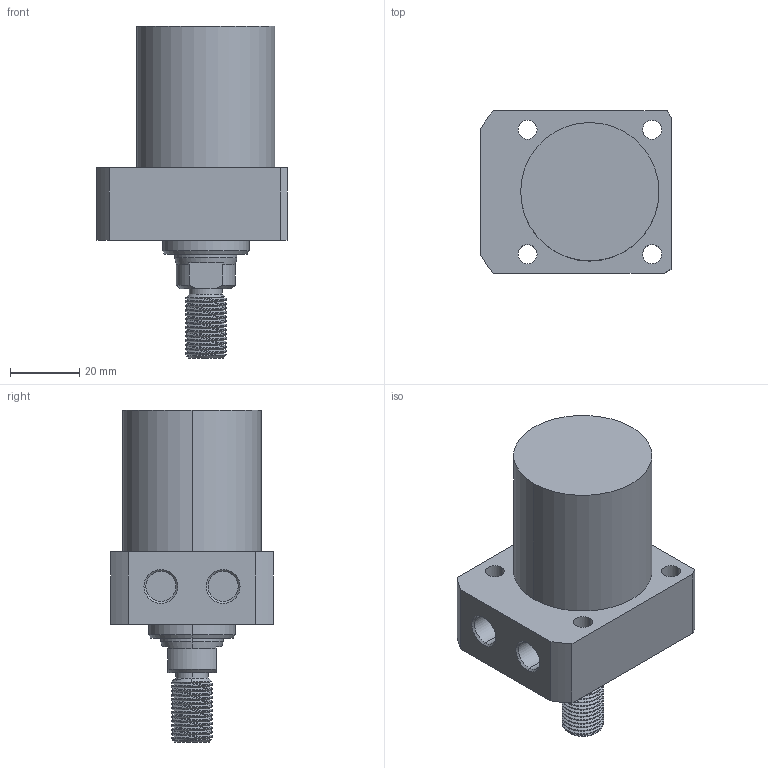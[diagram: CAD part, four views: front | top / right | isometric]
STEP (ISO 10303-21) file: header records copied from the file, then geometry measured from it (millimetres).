
FILE_DESCRIPTION (( 'STEP AP214' ), '1' );
FILE_NAME ('CLLR-040CT-030.STEP', '2020-01-08T10:48:17', ( 'Windows' ), ( 'Microsoft' ), 'SwSTEP 2.0', 'SolidWorks 2015', '' );
FILE_SCHEMA (( 'AUTOMOTIVE_DESIGN' ));
Length unit declared in the file: millimetre
Products named in the file (1): CLLR-040CT-030
Bounding box: 55 x 47 x 96 mm (x, y, z)
Volume: 107544.6 mm3; surface area: 18513.8 mm2
Topology: 1 solids, 1 shells, 93 faces, 237 edges, 154 vertices
Faces by surface type: cylinder 56, plane 20, cone 15, bspline 2
Entity records: 4536 total; most frequent: CARTESIAN_POINT 2323, ORIENTED_EDGE 474, DIRECTION 424, EDGE_CURVE 237, AXIS2_PLACEMENT_3D 166, VERTEX_POINT 154, EDGE_LOOP 109, ADVANCED_FACE 93
